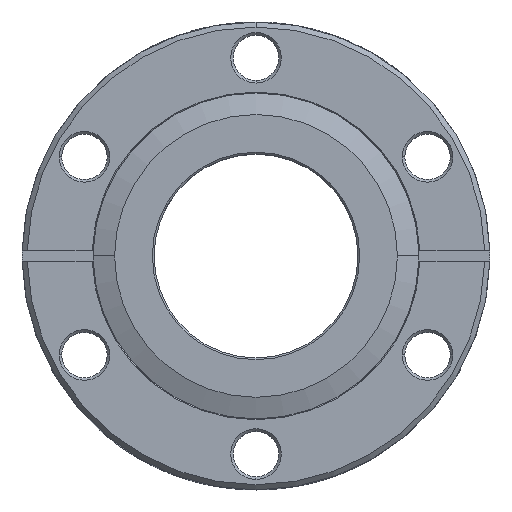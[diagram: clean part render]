
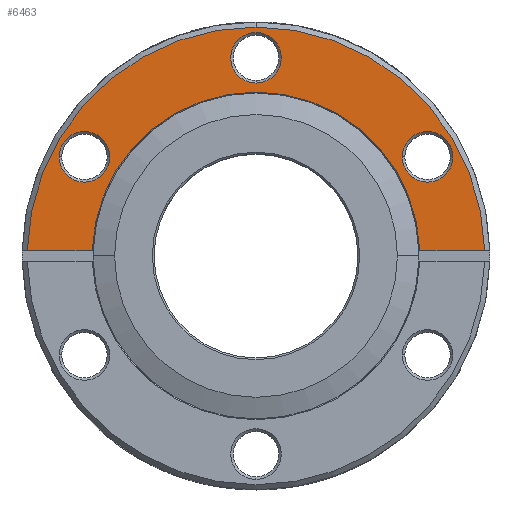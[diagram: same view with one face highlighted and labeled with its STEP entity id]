
A CAD part, top view. The second image highlights one B-rep face of the part: STEP entity #6463.
In plain terms, the highlighted planar face has unit normal (0, 0, 1).
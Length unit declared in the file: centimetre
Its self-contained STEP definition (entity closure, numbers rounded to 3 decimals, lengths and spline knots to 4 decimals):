
#830 = CARTESIAN_POINT ( 'NONE',  ( 0., 3.3109, 0. ) ) ;
#895 = CARTESIAN_POINT ( 'NONE',  ( 0., 2.5616, 0. ) ) ;
#1154 = CARTESIAN_POINT ( 'NONE',  ( 2.4269, 0.0794, 0. ) ) ;
#1162 = CARTESIAN_POINT ( 'NONE',  ( -2.4269, 0.0794, 0. ) ) ;
#1167 = CARTESIAN_POINT ( 'NONE',  ( 3.39, 0.0794, 0. ) ) ;
#1193 = CARTESIAN_POINT ( 'NONE',  ( -2.1682, 1.4681, 0. ) ) ;
#1195 = CARTESIAN_POINT ( 'NONE',  ( -3.39, 0.0794, 0. ) ) ;
#1199 = CARTESIAN_POINT ( 'NONE',  ( 2.1682, 1.4681, 0. ) ) ;
#1470 = CARTESIAN_POINT ( 'NONE',  ( -2.9175, 1.4681, 0. ) ) ;
#1473 = CARTESIAN_POINT ( 'NONE',  ( 2.9175, 1.4681, 0. ) ) ;
#1477 = CARTESIAN_POINT ( 'NONE',  ( 0., 3.3909, 0. ) ) ;
#4527 = EDGE_LOOP ( 'NONE', ( #23198, #66218 ) ) ;
#4969 = EDGE_LOOP ( 'NONE', ( #24347, #24434, #65276, #23090, #64961 ) ) ;
#5023 = EDGE_LOOP ( 'NONE', ( #62126, #24435 ) ) ;
#5167 = EDGE_LOOP ( 'NONE', ( #23759, #66172 ) ) ;
#6463 = ADVANCED_FACE ( 'NONE', ( #68052, #68058, #68055, #68057 ), #53212, .T. ) ;
#9770 = CARTESIAN_POINT ( 'NONE',  ( 0., 0., 0. ) ) ;
#9771 = DIRECTION ( 'NONE',  ( 0., 0., -1. ) ) ;
#9772 = DIRECTION ( 'NONE',  ( 1., 0., 0. ) ) ;
#9988 = CARTESIAN_POINT ( 'NONE',  ( -2.5429, 1.4681, 0. ) ) ;
#9989 = DIRECTION ( 'NONE',  ( 0., 0., 1. ) ) ;
#9990 = DIRECTION ( 'NONE',  ( 1., 0., 0. ) ) ;
#20787 = AXIS2_PLACEMENT_3D ( 'NONE', #53211, #53206, #53213 ) ;
#20884 = AXIS2_PLACEMENT_3D ( 'NONE', #9770, #9771, #9772 ) ;
#20890 = AXIS2_PLACEMENT_3D ( 'NONE', #9988, #9989, #9990 ) ;
#22274 = AXIS2_PLACEMENT_3D ( 'NONE', #51865, #51866, #51867 ) ;
#22314 = AXIS2_PLACEMENT_3D ( 'NONE', #45645, #45648, #45651 ) ;
#22317 = AXIS2_PLACEMENT_3D ( 'NONE', #45887, #45890, #45893 ) ;
#22319 = AXIS2_PLACEMENT_3D ( 'NONE', #46060, #46063, #46066 ) ;
#22322 = AXIS2_PLACEMENT_3D ( 'NONE', #46359, #46362, #46365 ) ;
#22415 = AXIS2_PLACEMENT_3D ( 'NONE', #28227, #28229, #28231 ) ;
#22421 = AXIS2_PLACEMENT_3D ( 'NONE', #28748, #28750, #28752 ) ;
#23090 = ORIENTED_EDGE ( 'NONE', *, *, #71070, .F. ) ;
#23198 = ORIENTED_EDGE ( 'NONE', *, *, #71027, .F. ) ;
#23759 = ORIENTED_EDGE ( 'NONE', *, *, #70304, .F. ) ;
#24347 = ORIENTED_EDGE ( 'NONE', *, *, #70350, .T. ) ;
#24434 = ORIENTED_EDGE ( 'NONE', *, *, #66498, .T. ) ;
#24435 = ORIENTED_EDGE ( 'NONE', *, *, #70411, .F. ) ;
#24853 = CIRCLE ( 'NONE', #22274, 0.3746 ) ;
#24899 = LINE ( 'NONE', #52251, #24900 ) ;
#24900 = VECTOR ( 'NONE', #52247, 100. ) ;
#24924 = LINE ( 'NONE', #45439, #24927 ) ;
#24927 = VECTOR ( 'NONE', #45444, 100. ) ;
#24938 = CIRCLE ( 'NONE', #22314, 0.3746 ) ;
#24953 = CIRCLE ( 'NONE', #22317, 0.3746 ) ;
#24960 = CIRCLE ( 'NONE', #22319, 0.3747 ) ;
#24975 = CIRCLE ( 'NONE', #22322, 3.3909 ) ;
#25426 = CIRCLE ( 'NONE', #22415, 0.3747 ) ;
#25465 = CIRCLE ( 'NONE', #22421, 3.3909 ) ;
#28227 = CARTESIAN_POINT ( 'NONE',  ( 0., 2.9362, 0. ) ) ;
#28229 = DIRECTION ( 'NONE',  ( 0., 0., 1. ) ) ;
#28231 = DIRECTION ( 'NONE',  ( 0., -1., 0. ) ) ;
#28748 = CARTESIAN_POINT ( 'NONE',  ( 0., 0., 0. ) ) ;
#28750 = DIRECTION ( 'NONE',  ( 0., 0., -1. ) ) ;
#28752 = DIRECTION ( 'NONE',  ( 0., 1., 0. ) ) ;
#35111 = VERTEX_POINT ( 'NONE', #830 ) ;
#35176 = VERTEX_POINT ( 'NONE', #895 ) ;
#35436 = VERTEX_POINT ( 'NONE', #1154 ) ;
#35444 = VERTEX_POINT ( 'NONE', #1162 ) ;
#35449 = VERTEX_POINT ( 'NONE', #1167 ) ;
#35475 = VERTEX_POINT ( 'NONE', #1193 ) ;
#35477 = VERTEX_POINT ( 'NONE', #1195 ) ;
#35481 = VERTEX_POINT ( 'NONE', #1199 ) ;
#35915 = VERTEX_POINT ( 'NONE', #1470 ) ;
#35920 = VERTEX_POINT ( 'NONE', #1477 ) ;
#35924 = VERTEX_POINT ( 'NONE', #1473 ) ;
#45439 = CARTESIAN_POINT ( 'NONE',  ( 0., 0.0794, 0. ) ) ;
#45444 = DIRECTION ( 'NONE',  ( 1., 0., 0. ) ) ;
#45645 = CARTESIAN_POINT ( 'NONE',  ( 2.5429, 1.4681, 0. ) ) ;
#45648 = DIRECTION ( 'NONE',  ( 0., 0., 1. ) ) ;
#45651 = DIRECTION ( 'NONE',  ( 1., 0., 0. ) ) ;
#45887 = CARTESIAN_POINT ( 'NONE',  ( -2.5429, 1.4681, 0. ) ) ;
#45890 = DIRECTION ( 'NONE',  ( 0., 0., 1. ) ) ;
#45893 = DIRECTION ( 'NONE',  ( 1., 0., 0. ) ) ;
#46060 = CARTESIAN_POINT ( 'NONE',  ( 0., 2.9362, 0. ) ) ;
#46063 = DIRECTION ( 'NONE',  ( 0., 0., 1. ) ) ;
#46066 = DIRECTION ( 'NONE',  ( 0., -1., 0. ) ) ;
#46359 = CARTESIAN_POINT ( 'NONE',  ( 0., 0., 0. ) ) ;
#46362 = DIRECTION ( 'NONE',  ( 0., 0., -1. ) ) ;
#46365 = DIRECTION ( 'NONE',  ( 0., 1., 0. ) ) ;
#51865 = CARTESIAN_POINT ( 'NONE',  ( 2.5429, 1.4681, 0. ) ) ;
#51866 = DIRECTION ( 'NONE',  ( 0., 0., 1. ) ) ;
#51867 = DIRECTION ( 'NONE',  ( 1., 0., 0. ) ) ;
#52247 = DIRECTION ( 'NONE',  ( 1., 0., 0. ) ) ;
#52251 = CARTESIAN_POINT ( 'NONE',  ( 0., 0.0794, 0. ) ) ;
#53206 = DIRECTION ( 'NONE',  ( 0., 0., 1. ) ) ;
#53211 = CARTESIAN_POINT ( 'NONE',  ( 0., 0., 0. ) ) ;
#53212 = PLANE ( 'NONE',  #20787 ) ;
#53213 = DIRECTION ( 'NONE',  ( 1., 0., 0. ) ) ;
#55785 = CIRCLE ( 'NONE', #20884, 2.4282 ) ;
#55805 = CIRCLE ( 'NONE', #20890, 0.3746 ) ;
#62126 = ORIENTED_EDGE ( 'NONE', *, *, #66527, .F. ) ;
#64961 = ORIENTED_EDGE ( 'NONE', *, *, #70435, .F. ) ;
#65276 = ORIENTED_EDGE ( 'NONE', *, *, #70384, .T. ) ;
#66172 = ORIENTED_EDGE ( 'NONE', *, *, #70397, .F. ) ;
#66218 = ORIENTED_EDGE ( 'NONE', *, *, #70419, .F. ) ;
#66498 = EDGE_CURVE ( 'NONE', #35444, #35436, #55785, .T. ) ;
#66527 = EDGE_CURVE ( 'NONE', #35475, #35915, #55805, .T. ) ;
#68052 = FACE_BOUND ( 'NONE', #4527, .T. ) ;
#68055 = FACE_BOUND ( 'NONE', #5167, .T. ) ;
#68057 = FACE_OUTER_BOUND ( 'NONE', #4969, .T. ) ;
#68058 = FACE_BOUND ( 'NONE', #5023, .T. ) ;
#70304 = EDGE_CURVE ( 'NONE', #35924, #35481, #24853, .T. ) ;
#70350 = EDGE_CURVE ( 'NONE', #35477, #35444, #24899, .T. ) ;
#70384 = EDGE_CURVE ( 'NONE', #35436, #35449, #24924, .T. ) ;
#70397 = EDGE_CURVE ( 'NONE', #35481, #35924, #24938, .T. ) ;
#70411 = EDGE_CURVE ( 'NONE', #35915, #35475, #24953, .T. ) ;
#70419 = EDGE_CURVE ( 'NONE', #35111, #35176, #24960, .T. ) ;
#70435 = EDGE_CURVE ( 'NONE', #35477, #35920, #24975, .T. ) ;
#71027 = EDGE_CURVE ( 'NONE', #35176, #35111, #25426, .T. ) ;
#71070 = EDGE_CURVE ( 'NONE', #35920, #35449, #25465, .T. ) ;
